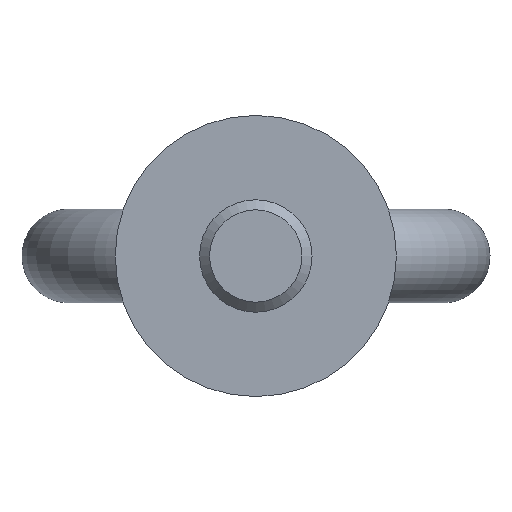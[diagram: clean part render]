
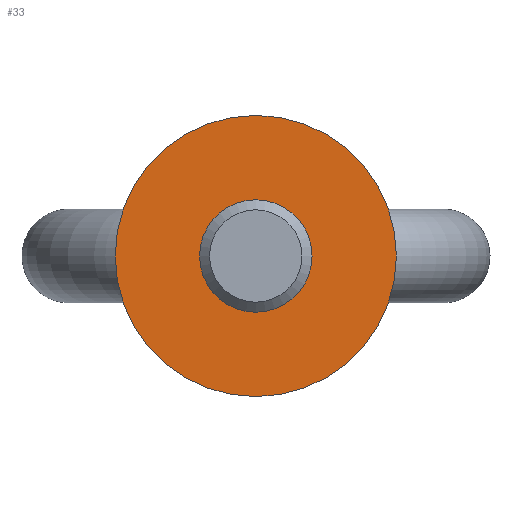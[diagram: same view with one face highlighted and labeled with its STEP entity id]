
A CAD part, front view. The second image highlights one B-rep face of the part: STEP entity #33.
In plain terms, the highlighted planar face has unit normal (0, -1, 0).
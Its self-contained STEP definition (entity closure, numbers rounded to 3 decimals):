
#33 = ADVANCED_FACE( '', ( #68, #69 ), #70, .F. );
#68 = FACE_BOUND( '', #108, .T. );
#69 = FACE_OUTER_BOUND( '', #109, .T. );
#70 = PLANE( '', #110 );
#108 = EDGE_LOOP( '', ( #142 ) );
#109 = EDGE_LOOP( '', ( #143 ) );
#110 = AXIS2_PLACEMENT_3D( '', #144, #145, #146 );
#142 = ORIENTED_EDGE( '', *, *, #211, .F. );
#143 = ORIENTED_EDGE( '', *, *, #212, .T. );
#144 = CARTESIAN_POINT( '', ( 15., 20., 0. ) );
#145 = DIRECTION( '', ( 0., 1., 0. ) );
#146 = DIRECTION( '', ( 0., 0., 1. ) );
#211 = EDGE_CURVE( '', #237, #237, #238, .T. );
#212 = EDGE_CURVE( '', #239, #239, #240, .T. );
#237 = VERTEX_POINT( '', #274 );
#238 = CIRCLE( '', #275, 6. );
#239 = VERTEX_POINT( '', #276 );
#240 = CIRCLE( '', #277, 15. );
#274 = CARTESIAN_POINT( '', ( 0., 20., -6. ) );
#275 = AXIS2_PLACEMENT_3D( '', #468, #469, #470 );
#276 = CARTESIAN_POINT( '', ( 0., 20., -15. ) );
#277 = AXIS2_PLACEMENT_3D( '', #471, #472, #473 );
#468 = CARTESIAN_POINT( '', ( 0., 20., 0. ) );
#469 = DIRECTION( '', ( 0., -1., 0. ) );
#470 = DIRECTION( '', ( 0., 0., -1. ) );
#471 = CARTESIAN_POINT( '', ( 0., 20., 0. ) );
#472 = DIRECTION( '', ( 0., -1., 0. ) );
#473 = DIRECTION( '', ( 0., 0., -1. ) );
